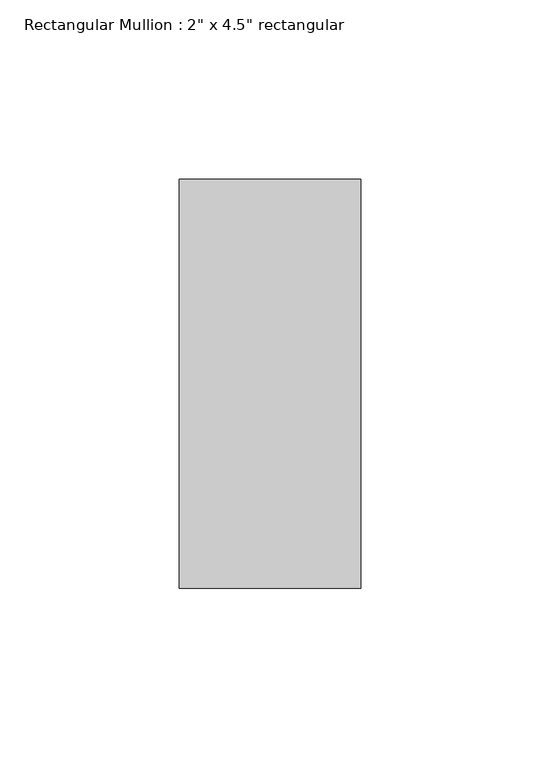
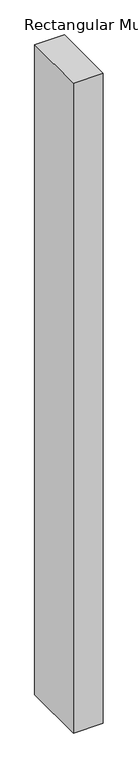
"""IFC4 building model written with IfcOpenShell, lengths in millimetres: member geometry."""

from ifc_helpers import new_model, si_unit, frame, origin, place, context, project, spatial, polyline, outline, extrude, source, transform, mapped, element, save


def member_53409b32(model_context):
    return source(origin(), model_context, "Body", "SweptSolid", [
        extrude(outline(polyline([(0.0, 57.15), (0.0, -57.15), (-50.8, -57.15), (-50.8, 57.15), (0.0, 57.15)])), frame((0.0, 0.0, -1173.6204147), z_axis=(0.0, 0.0, 1.0), x_axis=(1.0, 0.0, 0.0)), (0.0, 0.0, 1.0), 1173.6204147),
    ])


if __name__ == "__main__":
    model = new_model("IFC4")
    model_context = context("Model", 3, world=origin())
    ifc_project = project(units=[si_unit("LENGTHUNIT", "METRE", prefix="MILLI")], contexts=[model_context])
    site = spatial("IfcSite", under=ifc_project)
    building = spatial("IfcBuilding", under=site)
    placement = place(None, origin())
    member_shape = member_53409b32(model_context)
    element("IfcMember", 1, ObjectType="Rectangular Mullion : 2\" x 4.5\" rectangular", at=placement, inside=building, context=model_context, shape_type="MappedRepresentation", body=[
        mapped(member_shape, transform((0.0, 0.0, 0.0), x_axis=(1.0, 0.0, 0.0), y_axis=(0.0, 1.0, 0.0), z_axis=(0.0, 0.0, 1.0))),
    ])
    save(model, "model.ifc")
